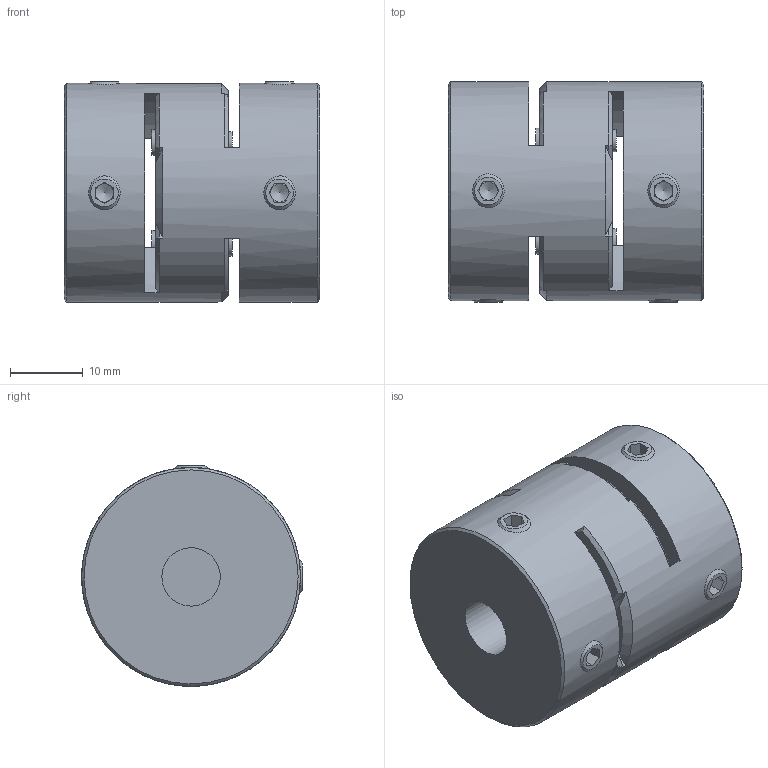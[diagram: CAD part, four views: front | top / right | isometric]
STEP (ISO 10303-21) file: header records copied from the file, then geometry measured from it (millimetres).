
FILE_DESCRIPTION( ( 'Unknown' ), '1' );
FILE_NAME( 'F:/JAKOB-STEP+IGES-Dateien/STEP-Dateien/MJT/MJT 30.stp', 'Unknown', ( 'Unknown' ), ( 'Unknown' ), 'PSStep 10.1', 'Unknown', ' ' );
FILE_SCHEMA( ( 'AUTOMOTIVE_DESIGN { 1 0 10303 214 1 1 1 1 }' ) );
Length unit declared in the file: millimetre
Products named in the file (1): KT100276-oa3
Bounding box: 35 x 30.25 x 30.25 mm (x, y, z)
Volume: 20644.1 mm3; surface area: 8156.6 mm2
Topology: 1 solids, 1 shells, 167 faces, 424 edges, 260 vertices
Faces by surface type: plane 72, cone 54, cylinder 37, torus 4
Full cylindrical faces by diameter (mm): 3 x1, 3.3 x2, 3.5 x3, 4.2 x2, 8 x2, 11.5 x2, 30 x1
Entity records: 6490 total; most frequent: CARTESIAN_POINT 1328, DIRECTION 840, ORIENTED_EDGE 728, EDGE_CURVE 364, AXIS2_PLACEMENT_3D 352, VERTEX_POINT 240, EDGE_LOOP 220, FACE_OUTER_BOUND 184
